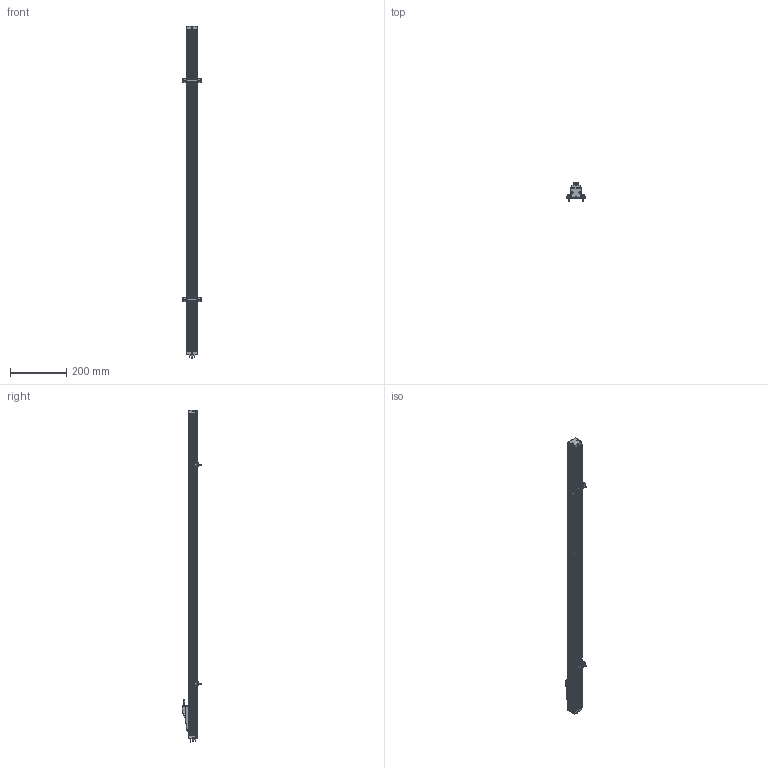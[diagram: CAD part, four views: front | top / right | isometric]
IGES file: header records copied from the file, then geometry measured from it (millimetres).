
Start section: SolidWorks IGES file using NURBS representation for surfaces
Global section: file name: I:\Zeichnungen_EK-VM\ZUR BEARBEITUNG\neu_sz\TLH\neu\prts\1000.IGS; native system: SolidWorks 2008; preprocessor: SolidWorks 2008; author: salzinger; date: 081127.155627; units: millimetre
Bounding box: 65 x 70.2 x 1176 mm (x, y, z)
Surface area: 297302.9 mm2 (no closed solid volume)
Topology: 0 solids, 0 shells, 1179 faces, 21614 edges, 27844 vertices
Faces by surface type: bspline 1179
